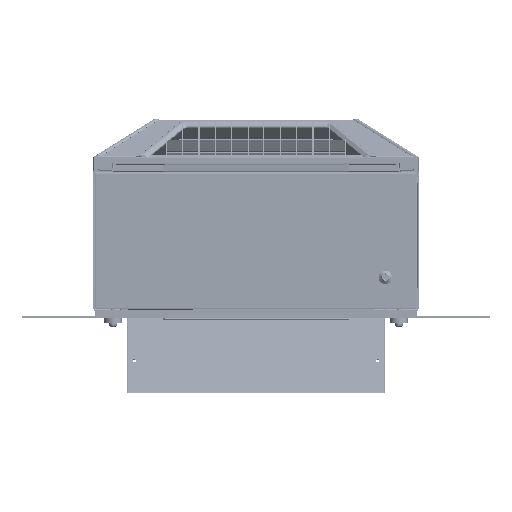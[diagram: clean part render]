
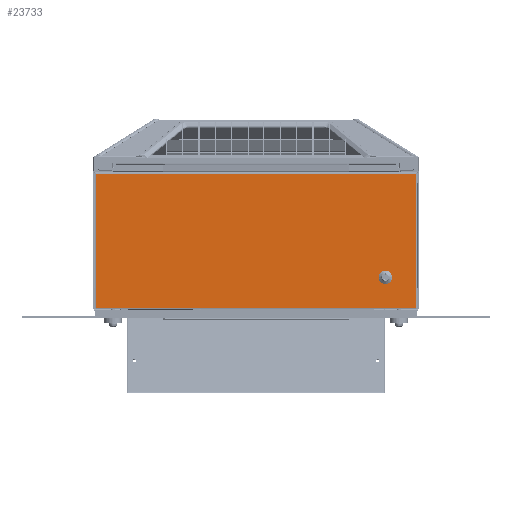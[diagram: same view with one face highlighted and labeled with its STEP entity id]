
A CAD part, front view. The second image highlights one B-rep face of the part: STEP entity #23733.
In plain terms, the highlighted planar face has unit normal (0, -1, 0).
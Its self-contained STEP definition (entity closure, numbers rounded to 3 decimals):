
#22087=DIRECTION('',(1.,0.,0.));
#22088=VECTOR('',#22087,448.);
#22089=CARTESIAN_POINT('',(-224.,0.,3.5));
#22090=LINE('',#22089,#22088);
#22111=CARTESIAN_POINT('',(181.,0.,46.5));
#22112=DIRECTION('',(0.,-1.,0.));
#22113=DIRECTION('',(-0.839,0.,-0.545));
#22114=AXIS2_PLACEMENT_3D('',#22111,#22112,#22113);
#22116=DIRECTION('',(-0.648,0.,-0.762));
#22117=VECTOR('',#22116,0.825);
#22118=CARTESIAN_POINT('',(178.084,0.,43.073));
#22119=LINE('',#22118,#22117);
#22120=CARTESIAN_POINT('',(181.,0.,46.5));
#22121=DIRECTION('',(0.,-1.,0.));
#22122=DIRECTION('',(-0.648,0.,-0.762));
#22123=AXIS2_PLACEMENT_3D('',#22120,#22121,#22122);
#22125=DIRECTION('',(0.98,0.,-0.198));
#22126=VECTOR('',#22125,1.661);
#22127=CARTESIAN_POINT('',(183.467,0.,41.781));
#22128=LINE('',#22127,#22126);
#22129=CARTESIAN_POINT('',(181.,0.,46.5));
#22130=DIRECTION('',(0.,-1.,0.));
#22131=DIRECTION('',(0.63,0.,-0.777));
#22132=AXIS2_PLACEMENT_3D('',#22129,#22130,#22131);
#22134=DIRECTION('',(-0.839,0.,-0.545));
#22135=VECTOR('',#22134,2.);
#22136=CARTESIAN_POINT('',(186.451,0.,50.04));
#22137=LINE('',#22136,#22135);
#22138=CARTESIAN_POINT('',(181.,0.,46.5));
#22139=DIRECTION('',(0.,-1.,0.));
#22140=DIRECTION('',(0.839,0.,0.545));
#22141=AXIS2_PLACEMENT_3D('',#22138,#22139,#22140);
#22143=DIRECTION('',(0.648,0.,0.762));
#22144=VECTOR('',#22143,0.825);
#22145=CARTESIAN_POINT('',(183.916,0.,49.927));
#22146=LINE('',#22145,#22144);
#22147=CARTESIAN_POINT('',(181.,0.,46.5));
#22148=DIRECTION('',(0.,-1.,0.));
#22149=DIRECTION('',(0.648,0.,0.762));
#22150=AXIS2_PLACEMENT_3D('',#22147,#22148,#22149);
#22152=DIRECTION('',(-0.98,0.,0.198));
#22153=VECTOR('',#22152,1.661);
#22154=CARTESIAN_POINT('',(178.533,0.,51.219));
#22155=LINE('',#22154,#22153);
#22156=CARTESIAN_POINT('',(181.,0.,46.5));
#22157=DIRECTION('',(0.,-1.,0.));
#22158=DIRECTION('',(-0.63,0.,0.777));
#22159=AXIS2_PLACEMENT_3D('',#22156,#22157,#22158);
#22161=DIRECTION('',(0.839,0.,0.545));
#22162=VECTOR('',#22161,2.);
#22163=CARTESIAN_POINT('',(175.549,0.,42.96));
#22164=LINE('',#22163,#22162);
#22177=DIRECTION('',(-1.,0.,0.));
#22178=VECTOR('',#22177,448.);
#22179=CARTESIAN_POINT('',(224.,0.,191.5));
#22180=LINE('',#22179,#22178);
#22233=DIRECTION('',(0.,0.,1.));
#22234=VECTOR('',#22233,188.);
#22235=CARTESIAN_POINT('',(224.,0.,3.5));
#22236=LINE('',#22235,#22234);
#22577=DIRECTION('',(0.,0.,-1.));
#22578=VECTOR('',#22577,188.);
#22579=CARTESIAN_POINT('',(-224.,0.,191.5));
#22580=LINE('',#22579,#22578);
#23197=CARTESIAN_POINT('',(-224.,0.,3.5));
#23198=CARTESIAN_POINT('',(224.,0.,3.5));
#23199=VERTEX_POINT('',#23197);
#23200=VERTEX_POINT('',#23198);
#23201=CARTESIAN_POINT('',(224.,0.,191.5));
#23202=CARTESIAN_POINT('',(-224.,0.,191.5));
#23203=VERTEX_POINT('',#23201);
#23204=VERTEX_POINT('',#23202);
#23205=CARTESIAN_POINT('',(177.226,0.,44.049));
#23206=CARTESIAN_POINT('',(178.084,0.,43.073));
#23207=VERTEX_POINT('',#23205);
#23208=VERTEX_POINT('',#23206);
#23209=CARTESIAN_POINT('',(177.549,0.,42.444));
#23210=VERTEX_POINT('',#23209);
#23211=CARTESIAN_POINT('',(183.467,0.,41.781));
#23212=VERTEX_POINT('',#23211);
#23213=CARTESIAN_POINT('',(185.096,0.,41.453));
#23214=VERTEX_POINT('',#23213);
#23215=CARTESIAN_POINT('',(186.451,0.,50.04));
#23216=VERTEX_POINT('',#23215);
#23217=CARTESIAN_POINT('',(184.774,0.,48.951));
#23218=VERTEX_POINT('',#23217);
#23219=CARTESIAN_POINT('',(183.916,0.,49.927));
#23220=VERTEX_POINT('',#23219);
#23221=CARTESIAN_POINT('',(184.451,0.,50.556));
#23222=VERTEX_POINT('',#23221);
#23223=CARTESIAN_POINT('',(178.533,0.,51.219));
#23224=VERTEX_POINT('',#23223);
#23225=CARTESIAN_POINT('',(176.904,0.,51.547));
#23226=VERTEX_POINT('',#23225);
#23227=CARTESIAN_POINT('',(175.549,0.,42.96));
#23228=VERTEX_POINT('',#23227);
#23693=CARTESIAN_POINT('',(0.,0.,0.));
#23694=DIRECTION('',(0.,-1.,0.));
#23695=DIRECTION('',(0.,0.,1.));
#23696=AXIS2_PLACEMENT_3D('',#23693,#23694,#23695);
#23697=PLANE('',#23696);
#23699=ORIENTED_EDGE('',*,*,#23698,.F.);
#23701=ORIENTED_EDGE('',*,*,#23700,.F.);
#23702=ORIENTED_EDGE('',*,*,#23683,.F.);
#23704=ORIENTED_EDGE('',*,*,#23703,.F.);
#23705=EDGE_LOOP('',(#23699,#23701,#23702,#23704));
#23706=FACE_OUTER_BOUND('',#23705,.F.);
#23708=ORIENTED_EDGE('',*,*,#23707,.T.);
#23710=ORIENTED_EDGE('',*,*,#23709,.T.);
#23712=ORIENTED_EDGE('',*,*,#23711,.T.);
#23714=ORIENTED_EDGE('',*,*,#23713,.T.);
#23716=ORIENTED_EDGE('',*,*,#23715,.T.);
#23718=ORIENTED_EDGE('',*,*,#23717,.T.);
#23720=ORIENTED_EDGE('',*,*,#23719,.T.);
#23722=ORIENTED_EDGE('',*,*,#23721,.T.);
#23724=ORIENTED_EDGE('',*,*,#23723,.T.);
#23726=ORIENTED_EDGE('',*,*,#23725,.T.);
#23728=ORIENTED_EDGE('',*,*,#23727,.T.);
#23730=ORIENTED_EDGE('',*,*,#23729,.T.);
#23731=EDGE_LOOP('',(#23708,#23710,#23712,#23714,#23716,#23718,#23720,#23722,
#23724,#23726,#23728,#23730));
#23732=FACE_BOUND('',#23731,.F.);
#23733=ADVANCED_FACE('',(#23706,#23732),#23697,.T.);
#22115=CIRCLE('',#22114,4.5);
#22124=CIRCLE('',#22123,5.325);
#22133=CIRCLE('',#22132,6.5);
#22142=CIRCLE('',#22141,4.5);
#22151=CIRCLE('',#22150,5.325);
#22160=CIRCLE('',#22159,6.5);
#23683=EDGE_CURVE('',#23199,#23200,#22090,.T.);
#23698=EDGE_CURVE('',#23203,#23204,#22180,.T.);
#23700=EDGE_CURVE('',#23200,#23203,#22236,.T.);
#23703=EDGE_CURVE('',#23204,#23199,#22580,.T.);
#23707=EDGE_CURVE('',#23207,#23208,#22115,.T.);
#23709=EDGE_CURVE('',#23208,#23210,#22119,.T.);
#23711=EDGE_CURVE('',#23210,#23212,#22124,.T.);
#23713=EDGE_CURVE('',#23212,#23214,#22128,.T.);
#23715=EDGE_CURVE('',#23214,#23216,#22133,.T.);
#23717=EDGE_CURVE('',#23216,#23218,#22137,.T.);
#23719=EDGE_CURVE('',#23218,#23220,#22142,.T.);
#23721=EDGE_CURVE('',#23220,#23222,#22146,.T.);
#23723=EDGE_CURVE('',#23222,#23224,#22151,.T.);
#23725=EDGE_CURVE('',#23224,#23226,#22155,.T.);
#23727=EDGE_CURVE('',#23226,#23228,#22160,.T.);
#23729=EDGE_CURVE('',#23228,#23207,#22164,.T.);
